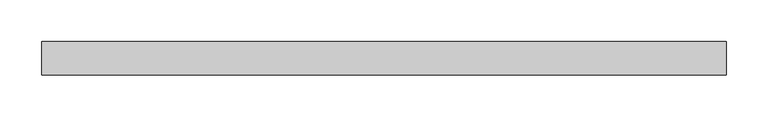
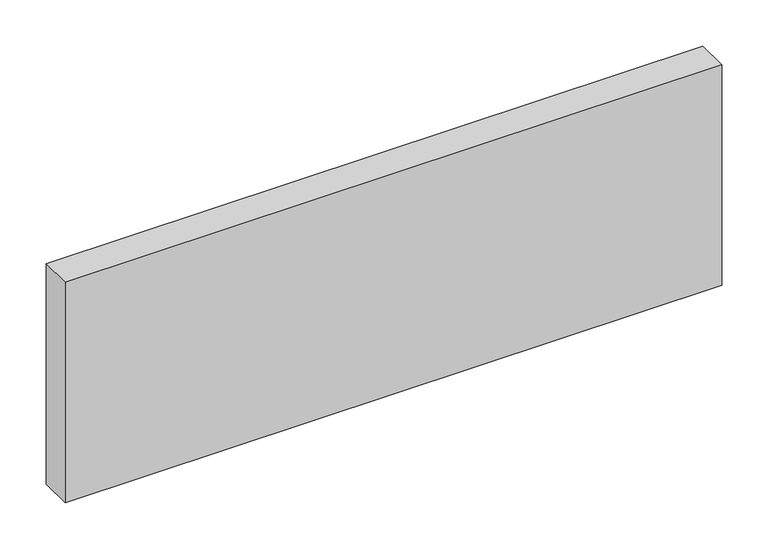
"""IFC4 building model written with IfcOpenShell, lengths in millimetres: plate geometry, Panneau système vide : Epaiss. 4cm."""

from ifc_helpers import new_model, si_unit, origin, origin_with_axes, place, context, project, spatial, polyline, outline, extrude, source, transform, mapped, element, save


def plate_7e283cce(model_context):
    return source(origin(), model_context, "Body", "SweptSolid", [
        extrude(outline(polyline([(408.15, -20.0), (-408.15, -20.0), (-408.15, 20.0), (408.15, 20.0), (408.15, -20.0)])), origin_with_axes(), (0.0, 0.0, 1.0), 289.482842),
    ])


if __name__ == "__main__":
    model = new_model("IFC4")
    model_context = context("Model", 3, world=origin())
    ifc_project = project(units=[si_unit("LENGTHUNIT", "METRE", prefix="MILLI")], contexts=[model_context])
    site = spatial("IfcSite", under=ifc_project)
    building = spatial("IfcBuilding", under=site)
    placement = place(None, origin())
    plate_shape = plate_7e283cce(model_context)
    element("IfcPlate", 1, ObjectType="Panneau système vide : Epaiss. 4cm", at=placement, inside=building, context=model_context, shape_type="MappedRepresentation", body=[
        mapped(plate_shape, transform((0.0, 0.0, 0.0), x_axis=(1.0, 0.0, 0.0), y_axis=(0.0, 1.0, 0.0), z_axis=(0.0, 0.0, 1.0))),
    ])
    save(model, "model.ifc")
